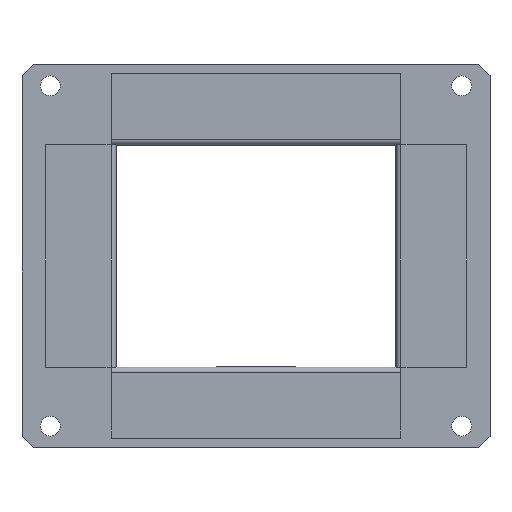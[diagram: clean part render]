
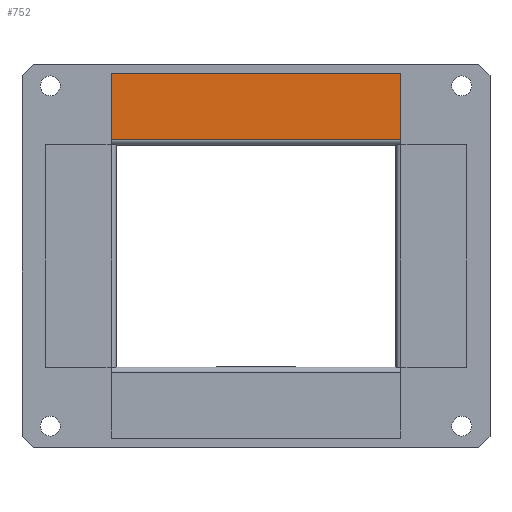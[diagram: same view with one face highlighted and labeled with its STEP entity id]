
A CAD part, top view. The second image highlights one B-rep face of the part: STEP entity #752.
In plain terms, the highlighted planar face has unit normal (0, 0, 1) as drawn and (0, 0, -1) by its records, which use the part's own axes.
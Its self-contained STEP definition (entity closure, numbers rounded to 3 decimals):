
#116 = VECTOR ( 'NONE', #5092, 1000. ) ;
#139 = EDGE_CURVE ( 'NONE', #5392, #4541, #2920, .T. ) ;
#498 = VECTOR ( 'NONE', #4007, 1000. ) ;
#752 = ADVANCED_FACE ( 'NONE', ( #5387 ), #6258, .T. ) ;
#1321 = EDGE_CURVE ( 'NONE', #5392, #6136, #2591, .T. ) ;
#1322 = AXIS2_PLACEMENT_3D ( 'NONE', #6101, #5950, #6042 ) ;
#1425 = ORIENTED_EDGE ( 'NONE', *, *, #1874, .T. ) ;
#1586 = VECTOR ( 'NONE', #1838, 1000. ) ;
#1830 = CARTESIAN_POINT ( 'NONE',  ( 50.8, 0., 0. ) ) ;
#1838 = DIRECTION ( 'NONE',  ( 0., -1., 0. ) ) ;
#1874 = EDGE_CURVE ( 'NONE', #4541, #2019, #6380, .T. ) ;
#2019 = VERTEX_POINT ( 'NONE', #3844 ) ;
#2236 = CARTESIAN_POINT ( 'NONE',  ( -50.8, 25., 0. ) ) ;
#2306 = EDGE_CURVE ( 'NONE', #6136, #2019, #3132, .T. ) ;
#2429 = VECTOR ( 'NONE', #3302, 1000. ) ;
#2591 = LINE ( 'NONE', #5061, #116 ) ;
#2695 = ORIENTED_EDGE ( 'NONE', *, *, #1321, .F. ) ;
#2920 = LINE ( 'NONE', #1830, #1586 ) ;
#3118 = CARTESIAN_POINT ( 'NONE',  ( 50.8, 1.8, 0. ) ) ;
#3132 = LINE ( 'NONE', #4061, #498 ) ;
#3293 = CARTESIAN_POINT ( 'NONE',  ( 50.8, 1.8, 0. ) ) ;
#3302 = DIRECTION ( 'NONE',  ( -1., 0., 0. ) ) ;
#3844 = CARTESIAN_POINT ( 'NONE',  ( -50.8, 1.8, 0. ) ) ;
#3863 = ORIENTED_EDGE ( 'NONE', *, *, #139, .T. ) ;
#4007 = DIRECTION ( 'NONE',  ( 0., -1., 0. ) ) ;
#4061 = CARTESIAN_POINT ( 'NONE',  ( -50.8, 0., 0. ) ) ;
#4541 = VERTEX_POINT ( 'NONE', #3118 ) ;
#4819 = CARTESIAN_POINT ( 'NONE',  ( 50.8, 25., 0. ) ) ;
#4834 = EDGE_LOOP ( 'NONE', ( #5332, #2695, #3863, #1425 ) ) ;
#5061 = CARTESIAN_POINT ( 'NONE',  ( 50.8, 25., 0. ) ) ;
#5092 = DIRECTION ( 'NONE',  ( -1., 0., 0. ) ) ;
#5332 = ORIENTED_EDGE ( 'NONE', *, *, #2306, .F. ) ;
#5387 = FACE_OUTER_BOUND ( 'NONE', #4834, .T. ) ;
#5392 = VERTEX_POINT ( 'NONE', #4819 ) ;
#5950 = DIRECTION ( 'NONE',  ( 0., 0., -1. ) ) ;
#6042 = DIRECTION ( 'NONE',  ( -1., 0., 0. ) ) ;
#6101 = CARTESIAN_POINT ( 'NONE',  ( 50.8, 0., 0. ) ) ;
#6136 = VERTEX_POINT ( 'NONE', #2236 ) ;
#6258 = PLANE ( 'NONE',  #1322 ) ;
#6380 = LINE ( 'NONE', #3293, #2429 ) ;
